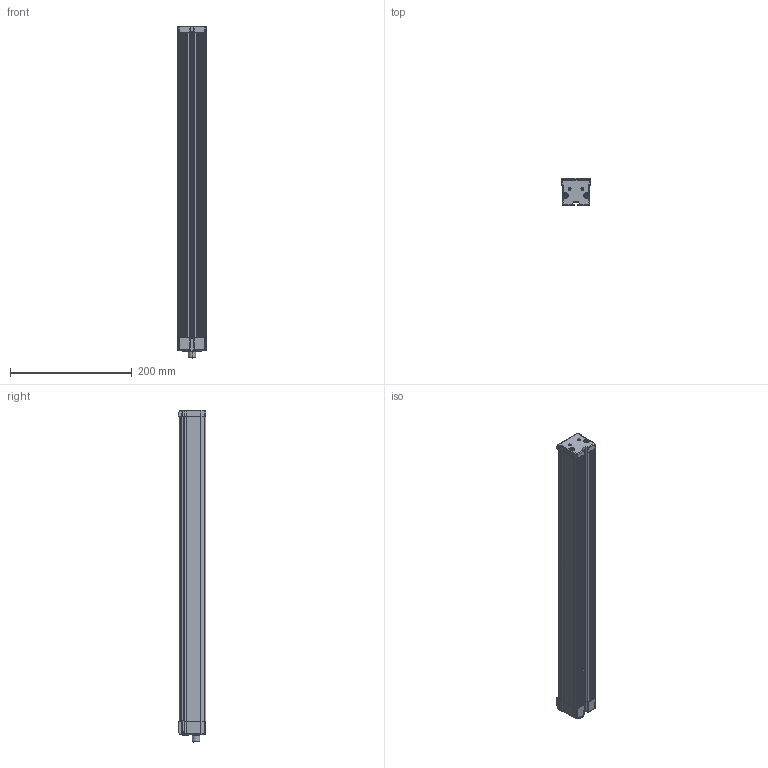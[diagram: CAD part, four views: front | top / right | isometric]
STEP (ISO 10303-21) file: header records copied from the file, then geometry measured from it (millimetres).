
FILE_DESCRIPTION (( 'STEP AP214' ), '1' );
FILE_NAME ('EBAR-C-500.STEP', '2017-11-07T12:36:21', ( '' ), ( '' ), 'SwSTEP 2.0', 'SolidWorks 2014', '' );
FILE_SCHEMA (( 'AUTOMOTIVE_DESIGN' ));
Length unit declared in the file: millimetre
Products named in the file (162): D1; C4; Open CASCADE STEP translator 6.8 1.37.1; U1; U3; Open CASCADE STEP translator 6.8 1.47.1; Layer_1; R12; Open CASCADE STEP translator 6.8 1.58.1; Open CASCADE STEP translator 6.8 1.7.1; U5; Open CASCADE STEP translator 6.8 1.65.1; Open CASCADE STEP translator 6.8 1.12.1; Pin_3; Button Cover for Curve Function; R11; Pin_2_12; Pin_2_2; Open CASCADE STEP translator 6.8 1.36.1; Pin_3_2; Body_1_8; Pin_2_10; A14054516; R10; Pin_1_13; Pin_1_3; Body_1_12; Pin_2_14; L2; Pin_1_11; A14054040_ASM; R9; Body_1_16; Body_1_4; C12; Pin_1_15; Open CASCADE STEP translator 6.8 1.11.1; Body_1_14; A14054027 after modification; R8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
Assembly tree (213 placements, depth 7):
  EBAR-C-500
    A14054001
    A14054002
    A14054005
    A14054517
    011843_ASM
      A14054006
      VE80510  x2
    A14054060_ASM
      A14054040_ASM
        1437892_EMBASE_MALE
        A14054027 after modification
      A14054516
      A14054517
      Button Cover for Curve Function
      039875_A Curve_connection_circuit
        Layer_1
        P1
          Open CASCADE STEP translator 6.8 1.2.1
            Body_1
        P2
          Open CASCADE STEP translator 6.8 1.3.1
            Body_1
        U2
          Open CASCADE STEP translator 6.8 1.4.1
            Body_1_2
            Pin_1
        C1
          Open CASCADE STEP translator 6.8 1.5.1
            Body_1_3
            Pin_1_2
            Pin_2
        C3
          Open CASCADE STEP translator 6.8 1.5.1
            Body_1_3
            Pin_1_2
            Pin_2
        C4
          Open CASCADE STEP translator 6.8 1.7.1
            Body_1_4
            Pin_1_3
            Pin_2_2
        C5
          Open CASCADE STEP translator 6.8 1.8.1
            Body_1_5
            Pin_1_4
            Pin_2_3
        C6
          Open CASCADE STEP translator 6.8 1.5.1
            Body_1_3
            Pin_1_2
            Pin_2
        L1
          Open CASCADE STEP translator 6.8 1.10.1
            Body_1_6
            Pin_1_5
            Pin_2_4
        L2
          Open CASCADE STEP translator 6.8 1.11.1
            Body_1_7
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Bounding box: 47.63 x 45 x 545.05 mm (x, y, z)
Volume: 412531.3 mm3; surface area: 383723.7 mm2
Topology: 211 solids, 215 shells, 8827 faces, 22387 edges, 13976 vertices
Faces by surface type: plane 3764, cylinder 2377, bspline 2296, cone 326, torus 64
Entity records: 276167 total; most frequent: CARTESIAN_POINT 118635, ORIENTED_EDGE 29980, DIRECTION 23289, EDGE_CURVE 14990, VERTEX_POINT 9330, AXIS2_PLACEMENT_3D 8186, LINE 6917, VECTOR 6917
